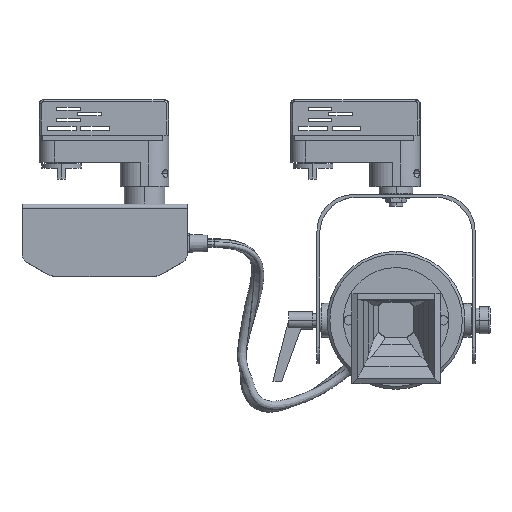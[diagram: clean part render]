
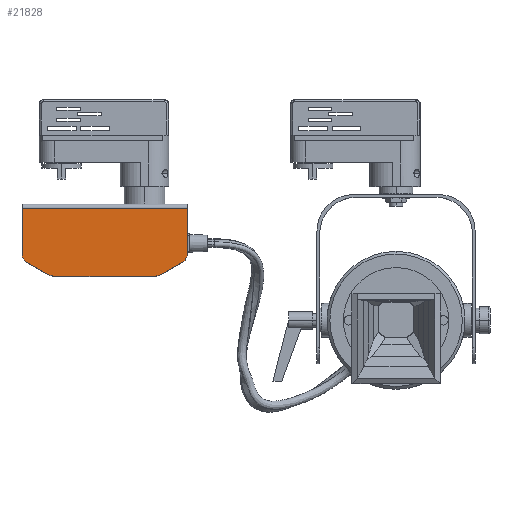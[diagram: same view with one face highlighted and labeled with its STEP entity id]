
A CAD part, top view. The second image highlights one B-rep face of the part: STEP entity #21828.
In plain terms, the highlighted planar face has unit normal (0, 0, 1) as drawn and (0, 0, -1) by its records, which use the part's own axes.
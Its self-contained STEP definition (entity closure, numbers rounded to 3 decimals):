
#66 = ORIENTED_EDGE ( 'NONE', *, *, #1655, .T. ) ;
#92 = ORIENTED_EDGE ( 'NONE', *, *, #9026, .T. ) ;
#1064 = ORIENTED_EDGE ( 'NONE', *, *, #9531, .T. ) ;
#1151 = EDGE_LOOP ( 'NONE', ( #1064, #92, #5225, #13167, #66, #17089, #22335, #2750, #7161, #4738 ) ) ;
#1411 = DIRECTION ( 'NONE',  ( 1., 0., 0. ) ) ;
#1655 = EDGE_CURVE ( 'NONE', #8853, #15130, #10390, .T. ) ;
#1835 = DIRECTION ( 'NONE',  ( 0., 0., -1. ) ) ;
#2119 = CARTESIAN_POINT ( 'NONE',  ( -58.05, -84.002, -32.4 ) ) ;
#2562 = EDGE_CURVE ( 'NONE', #10335, #9849, #18564, .T. ) ;
#2694 = CIRCLE ( 'NONE', #9761, 14.862 ) ;
#2748 = DIRECTION ( 'NONE',  ( 0., 0., -1. ) ) ;
#2750 = ORIENTED_EDGE ( 'NONE', *, *, #20633, .T. ) ;
#3368 = CARTESIAN_POINT ( 'NONE',  ( -43.12, -92.622, -32.4 ) ) ;
#4054 = CARTESIAN_POINT ( 'NONE',  ( 53.95, -78.113, -32.4 ) ) ;
#4139 = VERTEX_POINT ( 'NONE', #14677 ) ;
#4246 = VECTOR ( 'NONE', #12809, 1000. ) ;
#4354 = CARTESIAN_POINT ( 'NONE',  ( 60.75, -78.113, -32.4 ) ) ;
#4738 = ORIENTED_EDGE ( 'NONE', *, *, #13156, .T. ) ;
#5160 = DIRECTION ( 'NONE',  ( 1., 0., 0. ) ) ;
#5225 = ORIENTED_EDGE ( 'NONE', *, *, #11784, .T. ) ;
#5350 = LINE ( 'NONE', #22216, #4246 ) ;
#5531 = CARTESIAN_POINT ( 'NONE',  ( 42.419, -92.622, -32.4 ) ) ;
#5993 = CARTESIAN_POINT ( 'NONE',  ( 57.35, -84.002, -32.4 ) ) ;
#6299 = EDGE_CURVE ( 'NONE', #4139, #21463, #6490, .T. ) ;
#6314 = CARTESIAN_POINT ( 'NONE',  ( 34.988, -79.751, -32.4 ) ) ;
#6490 = LINE ( 'NONE', #8739, #17019 ) ;
#7027 = CIRCLE ( 'NONE', #19641, 6.8 ) ;
#7161 = ORIENTED_EDGE ( 'NONE', *, *, #2562, .T. ) ;
#7227 = EDGE_CURVE ( 'NONE', #9381, #8853, #11613, .T. ) ;
#7637 = CARTESIAN_POINT ( 'NONE',  ( -61.45, -44., -32.4 ) ) ;
#8407 = CARTESIAN_POINT ( 'NONE',  ( -61.45, -41., -32.4 ) ) ;
#8739 = CARTESIAN_POINT ( 'NONE',  ( 34.988, -94.614, -32.4 ) ) ;
#8853 = VERTEX_POINT ( 'NONE', #5993 ) ;
#9026 = EDGE_CURVE ( 'NONE', #15146, #14021, #19366, .T. ) ;
#9067 = DIRECTION ( 'NONE',  ( 1., 0., 0. ) ) ;
#9381 = VERTEX_POINT ( 'NONE', #4354 ) ;
#9531 = EDGE_CURVE ( 'NONE', #20745, #15146, #16518, .T. ) ;
#9563 = DIRECTION ( 'NONE',  ( 0., 0., -1. ) ) ;
#9710 = VECTOR ( 'NONE', #9945, 1000. ) ;
#9761 = AXIS2_PLACEMENT_3D ( 'NONE', #10938, #16225, #9067 ) ;
#9849 = VERTEX_POINT ( 'NONE', #2119 ) ;
#9945 = DIRECTION ( 'NONE',  ( 0., 1., 0. ) ) ;
#10335 = VERTEX_POINT ( 'NONE', #16207 ) ;
#10382 = AXIS2_PLACEMENT_3D ( 'NONE', #10789, #19797, #5160 ) ;
#10390 = LINE ( 'NONE', #11924, #18318 ) ;
#10718 = PLANE ( 'NONE',  #10382 ) ;
#10789 = CARTESIAN_POINT ( 'NONE',  ( -54.65, -78.113, -32.4 ) ) ;
#10938 = CARTESIAN_POINT ( 'NONE',  ( -35.689, -79.751, -32.4 ) ) ;
#11257 = DIRECTION ( 'NONE',  ( 1., 0., 0. ) ) ;
#11365 = EDGE_CURVE ( 'NONE', #15130, #4139, #11636, .T. ) ;
#11613 = CIRCLE ( 'NONE', #14689, 6.8 ) ;
#11636 = CIRCLE ( 'NONE', #13108, 14.862 ) ;
#11779 = DIRECTION ( 'NONE',  ( -0.866, -0.5, 0. ) ) ;
#11784 = EDGE_CURVE ( 'NONE', #14021, #9381, #5350, .T. ) ;
#11924 = CARTESIAN_POINT ( 'NONE',  ( 57.35, -84.002, -32.4 ) ) ;
#12423 = DIRECTION ( 'NONE',  ( -1., 0., 0. ) ) ;
#12639 = CARTESIAN_POINT ( 'NONE',  ( -54.65, -78.113, -32.4 ) ) ;
#12809 = DIRECTION ( 'NONE',  ( 0., -1., 0. ) ) ;
#13108 = AXIS2_PLACEMENT_3D ( 'NONE', #6314, #2748, #17421 ) ;
#13156 = EDGE_CURVE ( 'NONE', #9849, #20745, #7027, .T. ) ;
#13167 = ORIENTED_EDGE ( 'NONE', *, *, #7227, .T. ) ;
#14021 = VERTEX_POINT ( 'NONE', #22794 ) ;
#14440 = DIRECTION ( 'NONE',  ( 1., 0., 0. ) ) ;
#14553 = VECTOR ( 'NONE', #1411, 1000. ) ;
#14677 = CARTESIAN_POINT ( 'NONE',  ( 34.988, -94.614, -32.4 ) ) ;
#14689 = AXIS2_PLACEMENT_3D ( 'NONE', #4054, #9563, #11257 ) ;
#15130 = VERTEX_POINT ( 'NONE', #5531 ) ;
#15146 = VERTEX_POINT ( 'NONE', #7637 ) ;
#15518 = CARTESIAN_POINT ( 'NONE',  ( -54.65, -44., -32.4 ) ) ;
#16207 = CARTESIAN_POINT ( 'NONE',  ( -43.12, -92.622, -32.4 ) ) ;
#16225 = DIRECTION ( 'NONE',  ( 0., 0., -1. ) ) ;
#16518 = LINE ( 'NONE', #8407, #9710 ) ;
#16904 = CARTESIAN_POINT ( 'NONE',  ( -35.689, -94.614, -32.4 ) ) ;
#17019 = VECTOR ( 'NONE', #12423, 1000. ) ;
#17089 = ORIENTED_EDGE ( 'NONE', *, *, #11365, .T. ) ;
#17421 = DIRECTION ( 'NONE',  ( 1., 0., 0. ) ) ;
#17819 = DIRECTION ( 'NONE',  ( -0.866, 0.5, 0. ) ) ;
#18318 = VECTOR ( 'NONE', #11779, 1000. ) ;
#18564 = LINE ( 'NONE', #3368, #21414 ) ;
#19366 = LINE ( 'NONE', #15518, #14553 ) ;
#19641 = AXIS2_PLACEMENT_3D ( 'NONE', #12639, #1835, #14440 ) ;
#19797 = DIRECTION ( 'NONE',  ( 0., 0., 1. ) ) ;
#20633 = EDGE_CURVE ( 'NONE', #21463, #10335, #2694, .T. ) ;
#20745 = VERTEX_POINT ( 'NONE', #22070 ) ;
#21414 = VECTOR ( 'NONE', #17819, 1000. ) ;
#21463 = VERTEX_POINT ( 'NONE', #16904 ) ;
#21828 = ADVANCED_FACE ( 'NONE', ( #23284 ), #10718, .F. ) ;
#22070 = CARTESIAN_POINT ( 'NONE',  ( -61.45, -78.113, -32.4 ) ) ;
#22216 = CARTESIAN_POINT ( 'NONE',  ( 60.75, -78.113, -32.4 ) ) ;
#22335 = ORIENTED_EDGE ( 'NONE', *, *, #6299, .T. ) ;
#22794 = CARTESIAN_POINT ( 'NONE',  ( 60.75, -44., -32.4 ) ) ;
#23284 = FACE_OUTER_BOUND ( 'NONE', #1151, .T. ) ;
